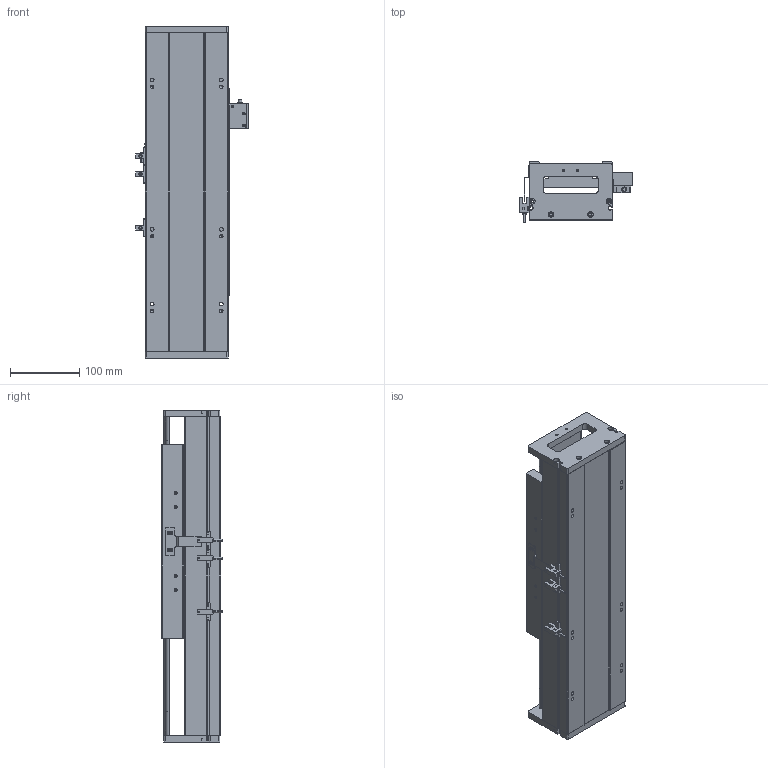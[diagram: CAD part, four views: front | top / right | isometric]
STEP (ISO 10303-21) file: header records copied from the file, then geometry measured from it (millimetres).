
FILE_DESCRIPTION (( 'STEP AP203' ), '1' );
FILE_NAME ('SKR12S-C2-S100（简）.STEP', '2022-09-26T03:10:26', ( '' ), ( '' ), 'SwSTEP 2.0', 'SolidWorks 2018', '' );
FILE_SCHEMA (( 'CONFIG_CONTROL_DESIGN' ));
Length unit declared in the file: millimetre
Products named in the file (8): SKR12S-C2-S100（简）; SKR12耜啣; 棠掑假蚾輸; EE-SX672; 覜茼え; SIKO棠掑; SKR12滑台-280L（简）; SKR12菁釱-C2-S100(潠)
Assembly tree (10 placements, depth 2):
  SKR12S-C2-S100（简）
    SKR12菁釱-C2-S100(潠)
    SKR12滑台-280L（简）
    SKR12耜啣  x2
    棠掑假蚾輸
    SIKO棠掑
    EE-SX672  x3
    覜茼え
Bounding box: 162.7 x 87.3 x 480 mm (x, y, z)
Volume: 2746258.5 mm3; surface area: 473601.1 mm2
Topology: 11 solids, 11 shells, 906 faces, 2393 edges, 1515 vertices
Faces by surface type: cylinder 396, plane 388, cone 122
Entity records: 23931 total; most frequent: CARTESIAN_POINT 4471, DIRECTION 4037, ORIENTED_EDGE 3774, EDGE_CURVE 1887, AXIS2_PLACEMENT_3D 1481, VERTEX_POINT 1219, VECTOR 1075, LINE 1075
